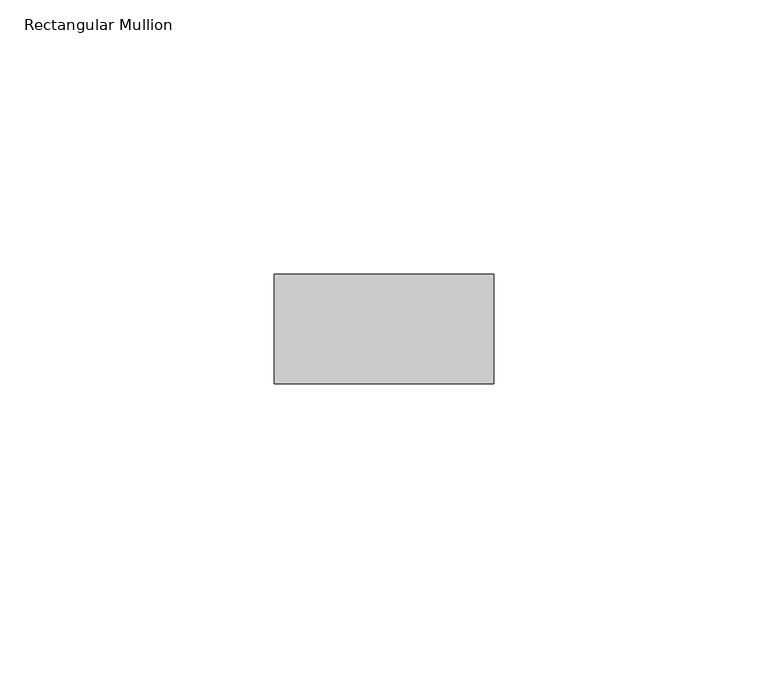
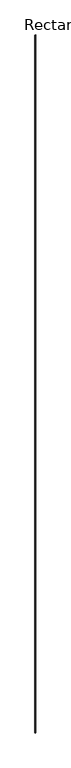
"""IFC4 building model written with IfcOpenShell, lengths in millimetres: member geometry, Rectangular Mullion : RIPA 4x2 cm."""

from ifc_helpers import new_model, si_unit, frame, origin, place, context, project, spatial, polyline, outline, extrude, source, transform, mapped, element, save


def rectangular_mullion_6c98cfdc(model_context):
    return source(origin(), model_context, "Body", "SweptSolid", [
        extrude(outline(polyline([(20.0, 0.0), (20.0, -20.0), (-20.0, -20.0), (-20.0, 0.0), (20.0, 0.0)])), frame((0.0, 0.0, -37876.6885909), z_axis=(0.0, 0.0, 1.0), x_axis=(1.0, 0.0, 0.0)), (0.0, 0.0, 1.0), 37876.6885909),
    ])


if __name__ == "__main__":
    model = new_model("IFC4")
    model_context = context("Model", 3, world=origin())
    ifc_project = project(units=[si_unit("LENGTHUNIT", "METRE", prefix="MILLI")], contexts=[model_context])
    site = spatial("IfcSite", under=ifc_project)
    building = spatial("IfcBuilding", under=site)
    placement = place(None, origin())
    rectangular_mullion_shape = rectangular_mullion_6c98cfdc(model_context)
    element("IfcMember", 1, ObjectType="Rectangular Mullion : RIPA 4x2 cm", at=placement, inside=building, context=model_context, shape_type="MappedRepresentation", body=[
        mapped(rectangular_mullion_shape, transform((0.0, 0.0, 0.0), x_axis=(1.0, 0.0, 0.0), y_axis=(0.0, 1.0, 0.0), z_axis=(0.0, 0.0, 1.0))),
    ])
    save(model, "model.ifc")
